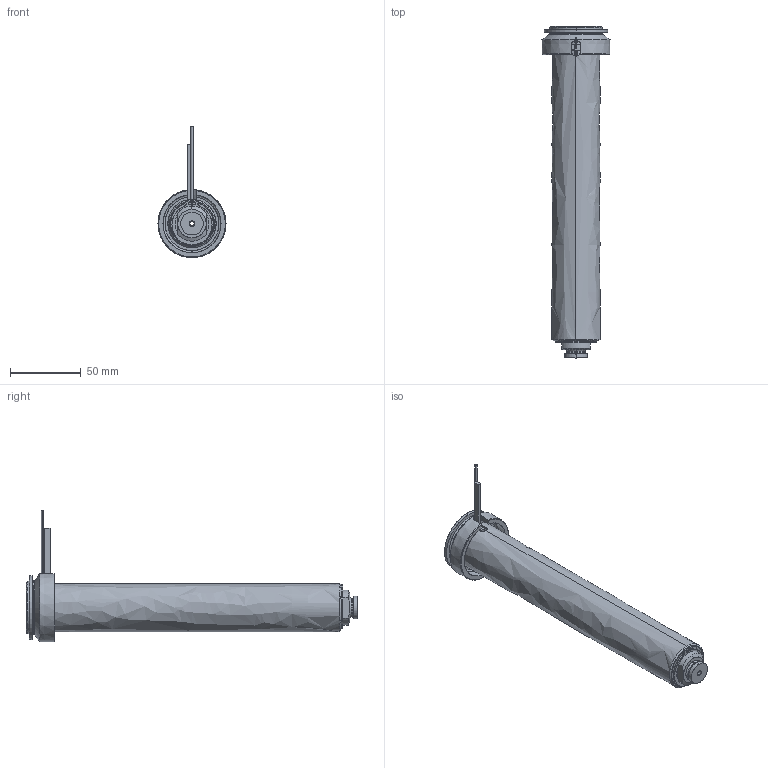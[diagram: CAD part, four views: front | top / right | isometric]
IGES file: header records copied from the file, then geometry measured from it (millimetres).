
Start section: SolidWorks IGES file using analytic representation for surfaces
Global section: file name: C:\Documents and Settings\ws-20\Desktop\TEMPORANEA\UGBE5005-M-A-3 [Ød-3.0 P-0 ØC-12].IGS; native system: SolidWorks 2012; preprocessor: SolidWorks 2012; author: ws-20; date: 120306.150140; units: millimetre
Bounding box: 48 x 234.25 x 92.62 mm (x, y, z)
Surface area: 86568 mm2 (no closed solid volume)
Topology: 0 solids, 0 shells, 109 faces, 2044 edges, 2044 vertices
Faces by surface type: revolution 61, bspline 48
